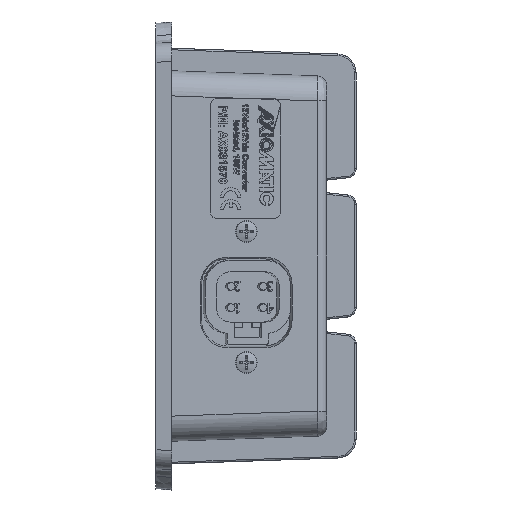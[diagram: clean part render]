
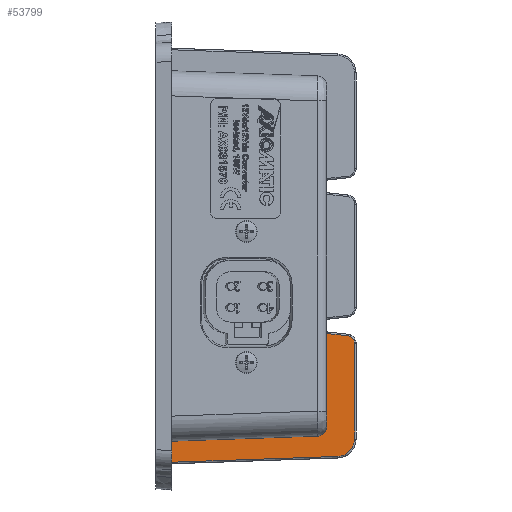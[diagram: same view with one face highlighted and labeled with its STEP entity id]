
A CAD part, left-side view. The second image highlights one B-rep face of the part: STEP entity #53799.
In plain terms, the highlighted planar face has unit normal (-1, -0.026, 0).
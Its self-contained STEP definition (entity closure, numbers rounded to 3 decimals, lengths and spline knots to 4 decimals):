
#38=ELLIPSE('',#56588,0.1182,0.1181);
#169=ELLIPSE('',#56813,0.0985,0.0984);
#170=ELLIPSE('',#56814,0.2166,0.2165);
#6482=FACE_OUTER_BOUND('',#9619,.T.);
#9619=EDGE_LOOP('',(#39184,#39185,#39186,#39187,#39188,#39189,#39190,#39191,
#39192));
#13743=LINE('',#83828,#18144);
#13920=LINE('',#84828,#18321);
#13921=LINE('',#84832,#18322);
#13922=LINE('',#84833,#18323);
#13923=LINE('',#84835,#18324);
#13924=LINE('',#84837,#18325);
#18144=VECTOR('',#64452,0.3937);
#18321=VECTOR('',#65081,0.3937);
#18322=VECTOR('',#65084,0.3937);
#18323=VECTOR('',#65085,0.3937);
#18324=VECTOR('',#65086,0.3937);
#18325=VECTOR('',#65087,0.3937);
#22338=VERTEX_POINT('',#83825);
#22339=VERTEX_POINT('',#83827);
#22340=VERTEX_POINT('',#83831);
#22603=VERTEX_POINT('',#84826);
#22604=VERTEX_POINT('',#84827);
#22605=VERTEX_POINT('',#84829);
#22606=VERTEX_POINT('',#84831);
#22607=VERTEX_POINT('',#84834);
#22608=VERTEX_POINT('',#84836);
#28183=EDGE_CURVE('',#22338,#22339,#13743,.F.);
#28185=EDGE_CURVE('',#22339,#22340,#38,.F.);
#28523=EDGE_CURVE('',#22603,#22604,#13920,.T.);
#28524=EDGE_CURVE('',#22605,#22603,#169,.T.);
#28525=EDGE_CURVE('',#22606,#22605,#13921,.T.);
#28526=EDGE_CURVE('',#22340,#22606,#13922,.T.);
#28527=EDGE_CURVE('',#22607,#22338,#13923,.T.);
#28528=EDGE_CURVE('',#22608,#22607,#13924,.T.);
#28529=EDGE_CURVE('',#22604,#22608,#170,.T.);
#39184=ORIENTED_EDGE('',*,*,#28523,.F.);
#39185=ORIENTED_EDGE('',*,*,#28524,.F.);
#39186=ORIENTED_EDGE('',*,*,#28525,.F.);
#39187=ORIENTED_EDGE('',*,*,#28526,.F.);
#39188=ORIENTED_EDGE('',*,*,#28185,.F.);
#39189=ORIENTED_EDGE('',*,*,#28183,.F.);
#39190=ORIENTED_EDGE('',*,*,#28527,.F.);
#39191=ORIENTED_EDGE('',*,*,#28528,.F.);
#39192=ORIENTED_EDGE('',*,*,#28529,.F.);
#49170=PLANE('',#56812);
#53799=ADVANCED_FACE('',(#6482),#49170,.F.);
#56588=AXIS2_PLACEMENT_3D('',#83832,#64456,#64457);
#56812=AXIS2_PLACEMENT_3D('',#84825,#65079,#65080);
#56813=AXIS2_PLACEMENT_3D('',#84830,#65082,#65083);
#56814=AXIS2_PLACEMENT_3D('',#84838,#65088,#65089);
#64452=DIRECTION('',(-0.026,0.999,-0.035));
#64456=DIRECTION('center_axis',(1.,0.026,0.));
#64457=DIRECTION('ref_axis',(0.026,-1.,0.));
#65079=DIRECTION('center_axis',(1.,0.026,0.));
#65080=DIRECTION('ref_axis',(0.,0.,-1.));
#65081=DIRECTION('',(0.,0.,-1.));
#65082=DIRECTION('center_axis',(1.,0.026,0.));
#65083=DIRECTION('ref_axis',(0.026,-1.,0.));
#65084=DIRECTION('',(0.026,-0.994,-0.104));
#65085=DIRECTION('',(0.,0.,1.));
#65086=DIRECTION('',(0.,0.,1.));
#65087=DIRECTION('',(-0.026,0.999,-0.035));
#65088=DIRECTION('center_axis',(1.,0.026,0.));
#65089=DIRECTION('ref_axis',(0.026,-1.,0.));
#83825=CARTESIAN_POINT('',(-3.1738,1.835,-2.3048));
#83827=CARTESIAN_POINT('',(-3.1262,0.021,-2.2415));
#83828=CARTESIAN_POINT('',(-3.1283,0.0979,-2.2442));
#83831=CARTESIAN_POINT('',(-3.1233,-0.093,-2.1234));
#83832=CARTESIAN_POINT('Origin',(-3.1264,0.0251,-2.1234));
#84825=CARTESIAN_POINT('Origin',(-3.1325,0.2588,0.));
#84826=CARTESIAN_POINT('',(-3.1142,-0.439,-1.0896));
#84827=CARTESIAN_POINT('',(-3.1142,-0.439,-2.2778));
#84828=CARTESIAN_POINT('',(-3.1142,-0.439,0.));
#84829=CARTESIAN_POINT('',(-3.1165,-0.3509,-0.9917));
#84830=CARTESIAN_POINT('Origin',(-3.1168,-0.3406,-1.0896));
#84831=CARTESIAN_POINT('',(-3.1233,-0.093,-0.9646));
#84832=CARTESIAN_POINT('',(-3.1244,-0.0497,-0.9601));
#84833=CARTESIAN_POINT('',(-3.1233,-0.093,0.));
#84834=CARTESIAN_POINT('',(-3.1738,1.835,-2.5663));
#84835=CARTESIAN_POINT('',(-3.1738,1.835,-2.586));
#84836=CARTESIAN_POINT('',(-3.1197,-0.2301,-2.4942));
#84837=CARTESIAN_POINT('',(-3.1519,1.0022,-2.5372));
#84838=CARTESIAN_POINT('Origin',(-3.1199,-0.2225,-2.2778));
